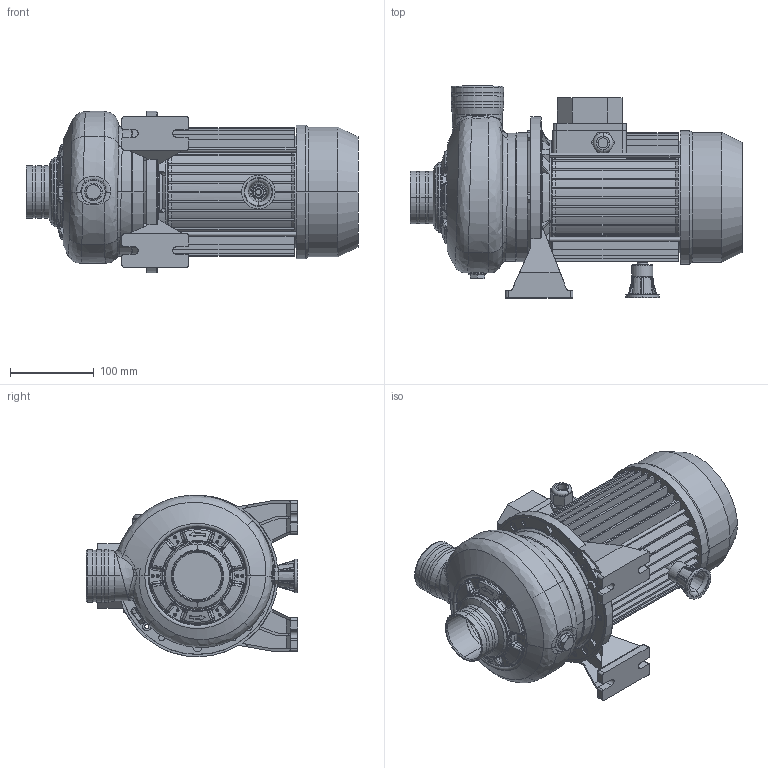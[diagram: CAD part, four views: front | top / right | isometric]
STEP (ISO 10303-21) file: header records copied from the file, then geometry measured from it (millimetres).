
FILE_DESCRIPTION((''),'2;1');
FILE_NAME('DWC_N_500_1_5_IE3_ASM','2020-11-11T',('rosa'),('"Ebara Pumps Europe +39.444.706811"'),'PRO/ENGINEER BY PARAMETRIC TECHNOLOGY CORPORATION, 2017170','PRO/ENGINEER BY PARAMETRIC TECHNOLOGY CORPORATION, 2017170','');
FILE_SCHEMA(('AUTOMOTIVE_DESIGN { 1 0 10303 214 1 1 1 1 }'));
Length unit declared in the file: millimetre
Products named in the file (12): MEC_80X130_IE3; 80596; 251420991; 10054; 76006; 40032; 10192; 62077; 20107_ASM; 72011; 72028; DWC_N_500_1_5_IE3_ASM
Assembly tree (13 placements, depth 3):
  DWC_N_500_1_5_IE3_ASM
    MEC_80X130_IE3
    80596
    20107_ASM
      251420991
      10054
      76006  x2
      40032  x2
      10192
      62077
    72011
    72028
Bounding box: 396.5 x 253 x 192.93 mm (x, y, z)
Volume: 2791624.9 mm3; surface area: 695958.7 mm2
Topology: 12 solids, 12 shells, 1683 faces, 4066 edges, 2456 vertices
Faces by surface type: plane 504, bspline 434, cylinder 312, torus 216, cone 171, sphere 42, extrusion 4
Entity records: 89751 total; most frequent: CARTESIAN_POINT 39775, ORIENTED_EDGE 7950, DIRECTION 6925, EDGE_CURVE 3975, PRESENTATION_STYLE_ASSIGNMENT 3928, STYLED_ITEM 3928, CURVE_STYLE 3919, AXIS2_PLACEMENT_3D 2876
